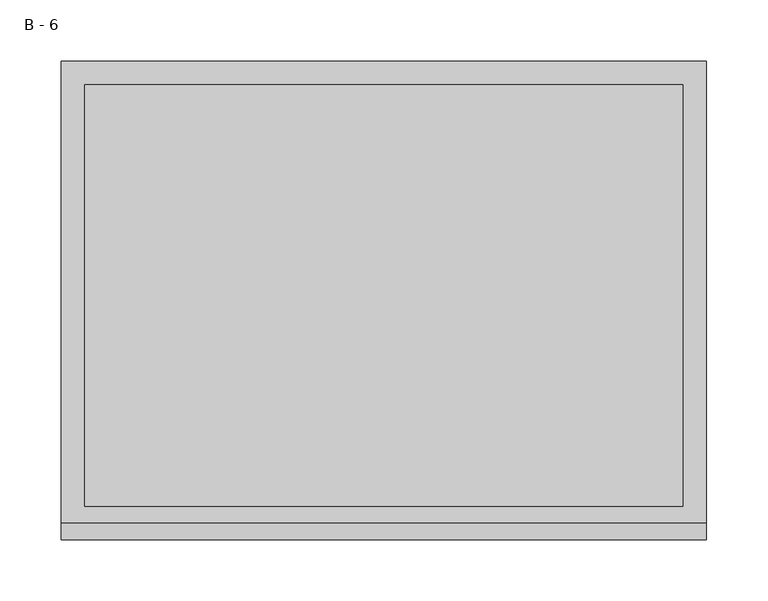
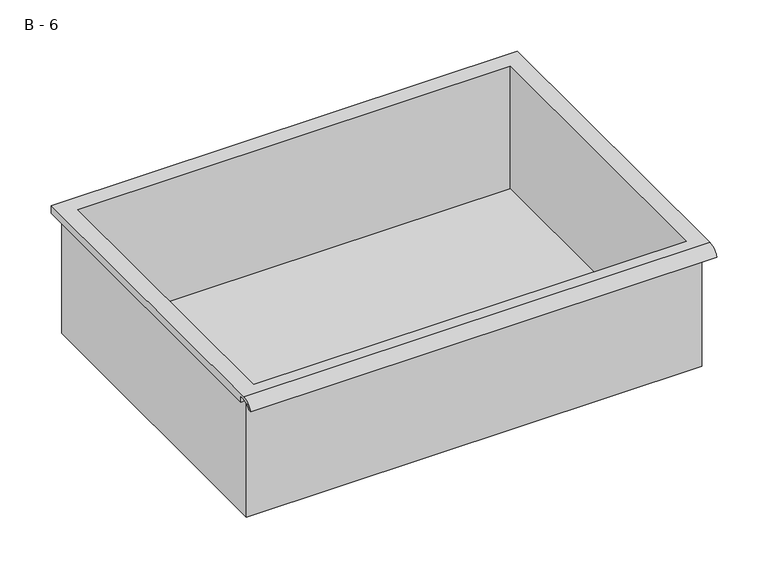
"""IFC4 building model written with IfcOpenShell, lengths in millimetres: furniture geometry, HermanMiller_CoStruc_CO207_Drawer : B - 6."""

import ifcopenshell
import ifcopenshell.guid

model = None  # the IFC model being written
_history = None  # IfcOwnerHistory: only IFC2X3 demands one
_inside = {}  # id of a spatial element -> (the spatial element, [elements in it])
_under = {}  # id of a project, library or spatial element -> (it, [spatial elements below it])
_declared = {}  # id of a project -> (the project, [libraries it declares])
_typed = {}  # id of a type object -> (the type object, [elements of that type])
_made_of = {}  # id of a material, layer set ... -> (it, [elements and type objects made of it])


def new_model(schema):
    """Start an empty IFC model of exactly this schema.

    Asked for "IFC4X3", IfcOpenShell would pick the latest addendum, in which some entities
    have other attributes; the version numbers below select the first issue.
    IFC2X3 requires an IfcOwnerHistory on every rooted entity: one is made here for all.
    """
    global model, _history
    if schema == "IFC4X3":
        model = ifcopenshell.file(schema_version=(4, 3, 0, 0))
    else:
        model = ifcopenshell.file(schema=schema)
    _inside.clear()
    _under.clear()
    _declared.clear()
    _typed.clear()
    _made_of.clear()
    _history = None
    if model.schema == "IFC2X3":
        org = make("IfcOrganization", Name="unknown")
        user = make(
            "IfcPersonAndOrganization",
            ThePerson=make("IfcPerson", FamilyName="unknown"),
            TheOrganization=org,
        )
        app = make(
            "IfcApplication",
            ApplicationDeveloper=org,
            Version="unknown",
            ApplicationFullName="unknown",
            ApplicationIdentifier="unknown",
        )
        _history = make(
            "IfcOwnerHistory",
            OwningUser=user,
            OwningApplication=app,
            ChangeAction="ADDED",
            CreationDate=0,
        )
    return model


def make(cls, **values):
    """One entity of the class cls with the attributes given. An attribute that is None is left unset."""
    return model.create_entity(
        cls, **{name: value for name, value in values.items() if value is not None}
    )


def rooted(cls, **values):
    """An entity with a GlobalId (a new one), such as an element, a storey or a relation."""
    return make(cls, GlobalId=ifcopenshell.guid.new(), OwnerHistory=_history, **values)


def si_unit(unit_type, name, prefix=None):
    """IfcSIUnit, for example si_unit("LENGTHUNIT", "METRE", prefix="MILLI")."""
    return make("IfcSIUnit", UnitType=unit_type, Prefix=prefix, Name=name)


def assignment(units):
    """IfcUnitAssignment: the units of a project."""
    return None if units is None else make("IfcUnitAssignment", Units=units)


def point(xyz):
    """IfcCartesianPoint."""
    return None if xyz is None else make("IfcCartesianPoint", Coordinates=xyz)


def direction(xyz):
    """IfcDirection."""
    return None if xyz is None else make("IfcDirection", DirectionRatios=xyz)


def frame(location, z_axis=None, x_axis=None):
    """IfcAxis2Placement3D, a coordinate frame: its origin and axes. An axis left out is left unset."""
    return make(
        "IfcAxis2Placement3D",
        Location=point(location),
        Axis=direction(z_axis),
        RefDirection=direction(x_axis),
    )


def origin():
    """The frame at (0, 0, 0) with its axes left unset."""
    return frame((0.0, 0.0, 0.0))


def place(relative_to, where):
    """IfcLocalPlacement: puts the frame where relative to a parent placement (None: the world)."""
    return make(
        "IfcLocalPlacement", PlacementRelTo=relative_to, RelativePlacement=where
    )


def context(
    kind, dimensions, precision=None, world=None, true_north=None, identifier=None
):
    """IfcGeometricRepresentationContext, for example the 3D "Model" context."""
    return make(
        "IfcGeometricRepresentationContext",
        ContextIdentifier=identifier,
        ContextType=kind,
        CoordinateSpaceDimension=dimensions,
        Precision=precision,
        WorldCoordinateSystem=world,
        TrueNorth=true_north,
    )


def project(units=None, contexts=None):
    """IfcProject with its units and contexts."""
    return rooted(
        "IfcProject",
        Name="project",
        RepresentationContexts=contexts,
        UnitsInContext=assignment(units),
    )


def spatial(cls, under=None, at=None, **own):
    """A site, building, storey or space (cls), placed at a placement, below another one or the project."""
    s = rooted(cls, ObjectPlacement=at, **own)
    if under is not None:
        _under.setdefault(under.id(), (under, []))[1].append(s)
    return s


def polyline(points):
    """IfcPolyline through the points."""
    return make("IfcPolyline", Points=[point(p) for p in points])


def circle_curve(where, radius):
    """IfcCircle in the frame where."""
    return make("IfcCircle", Position=where, Radius=radius)


def shape(context_of_items, identifier, shape_type, items):
    """IfcShapeRepresentation: the items that make up one representation, for example the "Body"."""
    return make(
        "IfcShapeRepresentation",
        ContextOfItems=context_of_items,
        RepresentationIdentifier=identifier,
        RepresentationType=shape_type,
        Items=items,
    )


def source(mapping_origin, context_of_items, identifier, shape_type, items):
    """IfcRepresentationMap: a shape defined once, which mapped items show again and again."""
    return make(
        "IfcRepresentationMap",
        MappingOrigin=mapping_origin,
        MappedRepresentation=shape(context_of_items, identifier, shape_type, items),
    )


def transform(
    local_origin,
    x_axis=None,
    y_axis=None,
    z_axis=None,
    scale=None,
    scale2=None,
    scale3=None,
    uniform=True,
):
    """IfcCartesianTransformationOperator3D, or its non-uniform kind. x_axis, y_axis, z_axis: its Axis1, 2, 3."""
    if uniform:
        return make(
            "IfcCartesianTransformationOperator3D",
            Axis1=direction(x_axis),
            Axis2=direction(y_axis),
            LocalOrigin=point(local_origin),
            Scale=scale,
            Axis3=direction(z_axis),
        )
    return make(
        "IfcCartesianTransformationOperator3DnonUniform",
        Axis1=direction(x_axis),
        Axis2=direction(y_axis),
        LocalOrigin=point(local_origin),
        Scale=scale,
        Axis3=direction(z_axis),
        Scale2=scale2,
        Scale3=scale3,
    )


def mapped(mapping_source, mapping_target):
    """IfcMappedItem: shows the shape of a source again, moved by a transform."""
    return make(
        "IfcMappedItem", MappingSource=mapping_source, MappingTarget=mapping_target
    )


def made_of(thing, what):
    """Note that an element or type object is made of a material, layer set ...; save() writes the relation."""
    if what is not None:
        _made_of.setdefault(what.id(), (what, []))[1].append(thing)
    return thing


def element(
    cls,
    number,
    at=None,
    inside=None,
    cuts=None,
    type_object=None,
    material=None,
    context=None,
    identifier="Body",
    shape_type=None,
    held_by="IfcProductDefinitionShape",
    body=None,
    shapes=None,
    **own,
):
    """One element of the class cls, such as IfcWall. Its Tag is "e" and its number.

    at: its placement. inside: the storey or other place that contains it. cuts: it is an
    opening in that element (IfcRelVoidsElement). A single representation is given by context,
    identifier, shape_type and body (its items); several are given by shapes. held_by: the class
    of the entity that holds the representations. save() writes the other relations.
    """
    e = rooted(cls, Tag="e%d" % number, ObjectPlacement=at, **own)
    if body is not None:
        shapes = [shape(context, identifier, shape_type, body)]
    if shapes is not None:
        e.Representation = make(held_by, Representations=shapes)
    if inside is not None:
        _inside.setdefault(inside.id(), (inside, []))[1].append(e)
    if cuts is not None:
        rooted(
            "IfcRelVoidsElement", RelatingBuildingElement=cuts, RelatedOpeningElement=e
        )
    if type_object is not None:
        _typed.setdefault(type_object.id(), (type_object, []))[1].append(e)
    return made_of(e, material)


def aggregate(whole, parts):
    """IfcRelAggregates: a whole, such as a stair, and the parts it consists of."""
    return rooted("IfcRelAggregates", RelatingObject=whole, RelatedObjects=parts)


def save(model, path):
    """Write the relations noted so far, then the file.

    IfcRelAggregates (storeys below a building ...), IfcRelContainedInSpatialStructure (elements
    in a storey), IfcRelDefinesByType, IfcRelAssociatesMaterial and IfcRelDeclares: one each for
    every whole, place, type object, material and project.
    """
    for whole, parts in _under.values():
        aggregate(whole, parts)
    for where, things in _inside.values():
        rooted(
            "IfcRelContainedInSpatialStructure",
            RelatedElements=things,
            RelatingStructure=where,
        )
    for kind, things in _typed.values():
        rooted("IfcRelDefinesByType", RelatedObjects=things, RelatingType=kind)
    for what, things in _made_of.values():
        rooted("IfcRelAssociatesMaterial", RelatedObjects=things, RelatingMaterial=what)
    for by, libraries in _declared.values():
        rooted("IfcRelDeclares", RelatingContext=by, RelatedDefinitions=libraries)
    model.write(path)


def plane_surface(at):
    """IfcPlane: the flat surface through the origin of the frame at, square to its z axis."""
    return make("IfcPlane", Position=at)


def cylinder_surface(at, radius):
    """IfcCylindricalSurface: all points at the distance radius from the z axis of the frame at."""
    return make("IfcCylindricalSurface", Position=at, Radius=radius)


def revolved_surface(curve, axis_point, axis_direction):
    """IfcSurfaceOfRevolution: the curve turned about the line through axis_point along axis_direction."""
    return make(
        "IfcSurfaceOfRevolution",
        SweptCurve=make("IfcArbitraryOpenProfileDef", ProfileType="CURVE", Curve=curve),
        AxisPosition=make("IfcAxis1Placement", Location=point(axis_point), Axis=direction(axis_direction)),
    )


def advanced_brep(points, edges, surfaces, faces):
    """IfcAdvancedBrep: a solid bounded by faces that lie on surfaces and meet in shared edges.

    An edge is (start, end): straight between two places in points (the first is 0);
    or (start, end, curve); or (start, end, curve, False) where it runs against its curve.
    A face is (place in surfaces, loops), or (place, loops, False) where it looks against
    its surface's normal. A loop lists edges by number (the first is 1), with a minus sign
    where the edge is run from its end to its start. The first loop is the outer one.
    """
    corners = [point(p) for p in points]
    vertices = [make("IfcVertexPoint", VertexGeometry=c) for c in corners]
    made = []
    for start, end, *more in edges:
        made.append(
            make(
                "IfcEdgeCurve",
                EdgeStart=vertices[start],
                EdgeEnd=vertices[end],
                EdgeGeometry=more[0] if more else make("IfcPolyline", Points=[corners[start], corners[end]]),
                SameSense=more[1] if len(more) > 1 else True,
            )
        )
    hull = []
    for where, loops, *sense in faces:
        bounds = []
        for j, loop in enumerate(loops):
            ring = [make("IfcOrientedEdge", EdgeElement=made[abs(k) - 1], Orientation=k > 0) for k in loop]
            bounds.append(
                make(
                    "IfcFaceOuterBound" if j == 0 else "IfcFaceBound",
                    Bound=make("IfcEdgeLoop", EdgeList=ring),
                    Orientation=True,
                )
            )
        hull.append(make("IfcAdvancedFace", Bounds=bounds, FaceSurface=surfaces[where], SameSense=sense[0] if sense else True))
    return make("IfcAdvancedBrep", Outer=make("IfcClosedShell", CfsFaces=hull))


def b_6_49bc5308(model_context):
    return source(origin(), model_context, "Body", "AdvancedBrep", [
        advanced_brep(
        [(-257.1076517, -176.2125, 701.675), (257.2423483, -176.2125, 701.675), (257.2423483, -176.2125, 841.375), (263.5923483, -176.2125, 841.375), (263.5923483, -176.2125, 847.6821341), (-263.4576517, -176.2125, 847.6821341), (-263.4576517, -176.2125, 841.375), (-257.1076517, -176.2125, 841.375), (257.2423483, 185.7375, 701.675), (-257.1076517, 185.7375, 701.675), (-257.1076517, 185.7375, 841.375), (257.2423483, 185.7375, 841.375), (263.5923483, -181.6070544, 850.9), (263.5923483, 195.2625, 850.9), (-263.4576517, 195.2625, 850.9), (-263.4576517, -181.6070544, 850.9), (244.5423483, -168.275, 850.9), (-244.4076517, -168.275, 850.9), (-244.4076517, 176.2125, 850.9), (244.5423483, 176.2125, 850.9), (263.5923483, -195.2625, 841.375), (263.5923483, -191.8280601, 841.375), (263.5923483, -180.4714815, 847.6821341), (263.5923483, 195.2625, 841.375), (-263.4576517, 195.2625, 841.375), (-263.4576517, -180.4714815, 847.6821341), (-263.4576517, -191.8280601, 841.375), (-263.4576517, -195.2625, 841.375), (-244.4076517, -168.275, 704.7011719), (244.5423483, -168.275, 704.7011719), (244.5423483, 176.2125, 704.7011719), (-244.4076517, 176.2125, 704.7011719)],
        [
            (0, 1),
            (1, 2),
            (2, 3),
            (3, 4),
            (4, 5),
            (5, 6),
            (6, 7),
            (7, 0),
            (8, 9),
            (9, 10),
            (10, 11),
            (11, 8),
            (0, 9),
            (8, 1),
            (11, 2),
            (12, 13),
            (13, 14),
            (14, 15),
            (15, 12),
            (16, 17),
            (17, 18),
            (18, 19),
            (19, 16),
            (7, 10),
            (12, 20, circle_curve(frame((263.5923483, -181.6070544, 836.3489859), z_axis=(1.0, 0.0, 0.0), x_axis=(0.0, 1.0, 0.0)), 14.5510141)),
            (20, 21),
            (21, 22, circle_curve(frame((263.5923483, -181.6070544, 836.3489859), z_axis=(-1.0, 0.0, 0.0), x_axis=(0.0, 1.0, 0.0)), 11.3898979)),
            (22, 4),
            (3, 23),
            (23, 13),
            (14, 24),
            (24, 6),
            (5, 25),
            (25, 26, circle_curve(frame((-263.4576517, -181.6070544, 836.3489859), z_axis=(1.0, 0.0, 0.0), x_axis=(0.0, 1.0, 0.0)), 11.3898979)),
            (26, 27),
            (27, 15, circle_curve(frame((-263.4576517, -181.6070544, 836.3489859), z_axis=(-1.0, 0.0, 0.0), x_axis=(0.0, 1.0, 0.0)), 14.5510141)),
            (27, 20),
            (26, 21),
            (25, 22),
            (24, 23),
            (28, 29),
            (29, 30),
            (30, 31),
            (31, 28),
            (28, 17),
            (16, 29),
            (19, 30),
            (18, 31),
        ],
        [
            plane_surface(frame((257.2423483, -176.2125, 701.675), z_axis=(0.0, -1.0, 0.0), x_axis=(1.0, 0.0, 0.0))),
            plane_surface(frame((257.2423483, 185.7375, 701.675), z_axis=(0.0, 1.0, 0.0), x_axis=(-1.0, 0.0, 0.0))),
            plane_surface(frame((-257.1076517, -176.2125, 701.675), z_axis=(0.0, 0.0, -1.0), x_axis=(0.0, 1.0, 0.0))),
            plane_surface(frame((257.2423483, -176.2125, 701.675), z_axis=(1.0, 0.0, 0.0), x_axis=(0.0, 1.0, 0.0))),
            plane_surface(frame((257.2423483, -176.2125, 850.9), z_axis=(0.0, 0.0, 1.0), x_axis=(0.0, 1.0, 0.0))),
            plane_surface(frame((-257.1076517, -176.2125, 850.9), z_axis=(-1.0, 0.0, 0.0), x_axis=(0.0, 1.0, 0.0))),
            plane_surface(frame((263.5923483, 195.2625, 850.9), z_axis=(1.0, 0.0, 0.0), x_axis=(0.0, -1.0, 0.0))),
            plane_surface(frame((-263.4576517, 195.2625, 850.9), z_axis=(-1.0, 0.0, 0.0), x_axis=(0.0, 1.0, 0.0))),
            cylinder_surface(frame((-263.4576517, -181.6070544, 836.3489859), z_axis=(1.0, 0.0, 0.0), x_axis=(0.0, 1.0, 0.0)), 14.5510141),
            plane_surface(frame((263.5923483, -195.2625, 841.375), z_axis=(0.0, -7.2124091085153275e-12, -1.0), x_axis=(-1.0, 0.0, 0.0))),
            revolved_surface(polyline([(-263.4576517, -170.21715650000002, 836.3489859), (263.59234829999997, -170.21715650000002, 836.3489859)]), (-263.4576517, -181.6070544, 836.3489859), (-1.0, 0.0, 0.0)),
            plane_surface(frame((263.5923483, -180.4714815, 847.6821341), z_axis=(0.0, -1.789319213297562e-11, -1.0), x_axis=(-1.0, 0.0, 0.0))),
            plane_surface(frame((263.5923483, -176.2125, 841.375), z_axis=(0.0, 0.0, -1.0), x_axis=(-1.0, 0.0, 0.0))),
            plane_surface(frame((263.5923483, 195.2625, 841.375), z_axis=(0.0, 1.0, 0.0), x_axis=(-1.0, 0.0, 0.0))),
            plane_surface(frame((244.5423483, -168.275, 704.7011719), z_axis=(0.0, 0.0, 1.0), x_axis=(-1.0, 0.0, 0.0))),
            plane_surface(frame((-244.4076517, -168.275, 850.9), z_axis=(0.0, 1.0, 0.0), x_axis=(0.0, 0.0, -1.0))),
            plane_surface(frame((244.5423483, -168.275, 850.9), z_axis=(-1.0, 0.0, 0.0), x_axis=(0.0, 0.0, -1.0))),
            plane_surface(frame((244.5423483, 176.2125, 850.9), z_axis=(0.0, -1.0, 0.0), x_axis=(0.0, 0.0, -1.0))),
            plane_surface(frame((-244.4076517, 176.2125, 850.9), z_axis=(1.0, 0.0, 0.0), x_axis=(0.0, 0.0, -1.0))),
        ],
        [
            (0, [[1, 2, 3, 4, 5, 6, 7, 8]]),
            (1, [[9, 10, 11, 12]]),
            (2, [[-1, 13, -9, 14]]),
            (3, [[-14, -12, 15, -2]]),
            (4, [[16, 17, 18, 19], [20, 21, 22, 23]]),
            (5, [[-13, -8, 24, -10]]),
            (6, [[-16, 25, 26, 27, 28, -4, 29, 30]]),
            (7, [[31, 32, -6, 33, 34, 35, 36, -18]]),
            (8, [[-25, -19, -36, 37]]),
            (9, [[-26, -37, -35, 38]]),
            (10, [[-27, -38, -34, 39]]),
            (11, [[-28, -39, -33, -5]]),
            (12, [[-29, -3, -15, -11, -24, -7, -32, 40]]),
            (13, [[-30, -40, -31, -17]]),
            (14, [[41, 42, 43, 44]]),
            (15, [[-41, 45, -20, 46]]),
            (16, [[-42, -46, -23, 47]]),
            (17, [[-43, -47, -22, 48]]),
            (18, [[-44, -48, -21, -45]]),
        ],
    ),
    ])


if __name__ == "__main__":
    model = new_model("IFC4")
    model_context = context("Model", 3, world=origin())
    ifc_project = project(units=[si_unit("LENGTHUNIT", "METRE", prefix="MILLI")], contexts=[model_context])
    site = spatial("IfcSite", under=ifc_project)
    building = spatial("IfcBuilding", under=site)
    placement = place(None, origin())
    b_6_shape = b_6_49bc5308(model_context)
    element("IfcFurniture", 1, ObjectType="HermanMiller_CoStruc_CO207_Drawer : B - 6", at=placement, inside=building, context=model_context, shape_type="MappedRepresentation", body=[
        mapped(b_6_shape, transform((0.0, 0.0, 0.0), x_axis=(1.0, 0.0, 0.0), y_axis=(0.0, 1.0, 0.0), z_axis=(0.0, 0.0, 1.0))),
    ])
    save(model, "model.ifc")
